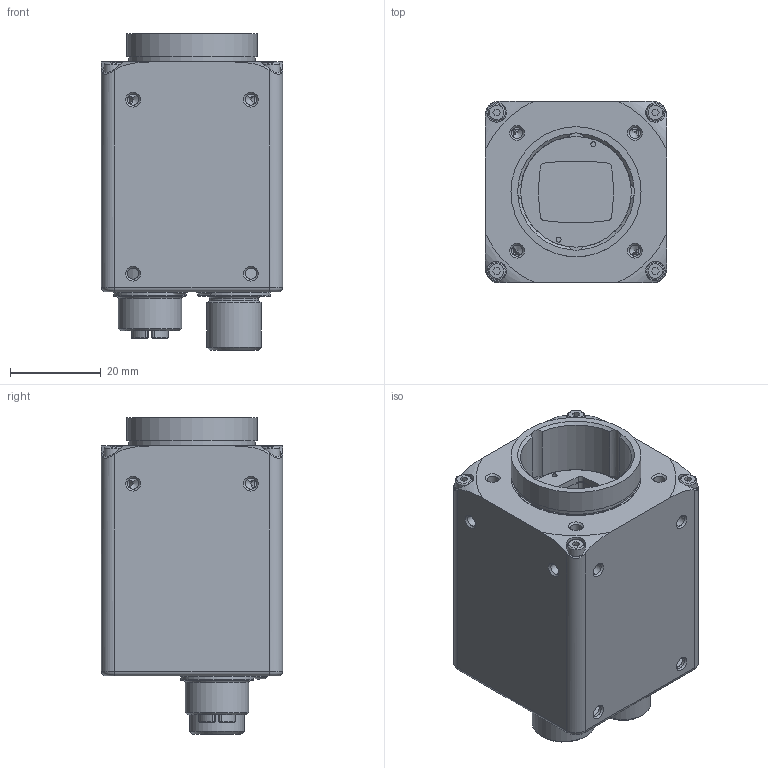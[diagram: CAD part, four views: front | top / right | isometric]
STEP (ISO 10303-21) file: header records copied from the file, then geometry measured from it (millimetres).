
FILE_DESCRIPTION( ( 'Unknown' ), '1' );
FILE_NAME( 'C:/Users/rih/Desktop/11186795_VCXG-124M.I.stp', '14.10.2014', ( 'Unknown' ), ( 'Unknown' ), 'PSStep 15.0.49', 'Unknown', ' ' );
FILE_SCHEMA( ( 'AUTOMOTIVE_DESIGN { 1 0 10303 214 1 1 1 1 }' ) );
Length unit declared in the file: millimetre
Products named in the file (2): 11096515
Bounding box: 40 x 40 x 69.9 mm (x, y, z)
Volume: 26032.6 mm3; surface area: 30758.9 mm2
Topology: 2 solids, 2 shells, 1749 faces, 4351 edges, 2933 vertices
Faces by surface type: plane 833, cylinder 682, torus 92, cone 67, sphere 36, extrusion 20, bspline 19
Full cylindrical faces by diameter (mm): 0.217 x2, 0.6 x238, 0.63 x12, 0.7 x8, 0.75 x1, 0.8 x8, 0.85 x1, 1 x3, 1.1 x14, 1.24 x8, 2 x6, 2.4 x4, 2.459 x26, 2.8 x2, 3.4 x2, 3.8 x4, 8 x2, 8.25 x1, 8.3 x1, 8.4 x1, 8.9 x1, 9 x1, 9.3 x2, 9.4 x2, 10 x1, 10.2 x1, 10.75 x1, 11 x1, 12 x3, 13.3 x2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
Entity records: 65441 total; most frequent: CARTESIAN_POINT 13282, DIRECTION 8062, ORIENTED_EDGE 6914, EDGE_CURVE 3457, AXIS2_PLACEMENT_3D 3226, EDGE_LOOP 2632, VERTEX_POINT 2575, FACE_OUTER_BOUND 2182
